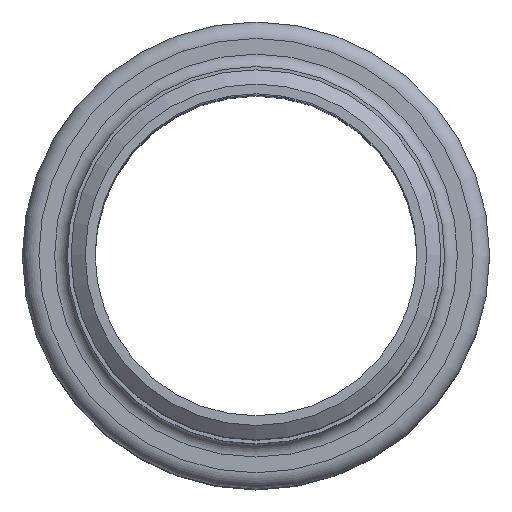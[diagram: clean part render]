
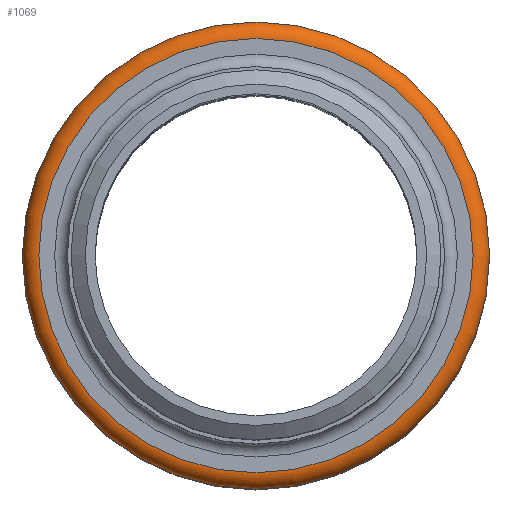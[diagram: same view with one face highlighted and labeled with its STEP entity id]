
A CAD part, top view. The second image highlights one B-rep face of the part: STEP entity #1069.
In plain terms, the highlighted toroidal (fillet/blend) face has major radius 35.414 mm and minor radius 2.686 mm.
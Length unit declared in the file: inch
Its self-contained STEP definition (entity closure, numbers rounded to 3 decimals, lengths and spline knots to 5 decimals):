
#45=TOROIDAL_SURFACE('',#1267,1.39425,0.10575);
#172=FACE_OUTER_BOUND('',#283,.T.);
#283=EDGE_LOOP('',(#826,#827,#828,#829));
#403=CIRCLE('',#1266,1.39425);
#404=CIRCLE('',#1268,1.39425);
#405=CIRCLE('',#1269,0.10575);
#492=VERTEX_POINT('',#1939);
#493=VERTEX_POINT('',#1942);
#607=EDGE_CURVE('',#492,#492,#403,.T.);
#608=EDGE_CURVE('',#493,#493,#404,.T.);
#609=EDGE_CURVE('',#493,#492,#405,.T.);
#826=ORIENTED_EDGE('',*,*,#608,.F.);
#827=ORIENTED_EDGE('',*,*,#609,.T.);
#828=ORIENTED_EDGE('',*,*,#607,.T.);
#829=ORIENTED_EDGE('',*,*,#609,.F.);
#1069=ADVANCED_FACE('',(#172),#45,.T.);
#1266=AXIS2_PLACEMENT_3D('',#1940,#1625,#1626);
#1267=AXIS2_PLACEMENT_3D('',#1941,#1627,#1628);
#1268=AXIS2_PLACEMENT_3D('',#1943,#1629,#1630);
#1269=AXIS2_PLACEMENT_3D('',#1944,#1631,#1632);
#1625=DIRECTION('center_axis',(0.,0.,
-1.));
#1626=DIRECTION('ref_axis',(1.,0.,0.));
#1627=DIRECTION('center_axis',(0.,0.,
-1.));
#1628=DIRECTION('ref_axis',(-1.,0.,0.));
#1629=DIRECTION('center_axis',(0.,0.,
-1.));
#1630=DIRECTION('ref_axis',(1.,0.,0.));
#1631=DIRECTION('center_axis',(0.,-1.,0.));
#1632=DIRECTION('ref_axis',(1.,0.,0.));
#1939=CARTESIAN_POINT('',(1.39425,0.,-1.58175));
#1940=CARTESIAN_POINT('Origin',(0.,0.,
-1.58175));
#1941=CARTESIAN_POINT('Origin',(0.,0.,
-1.6875));
#1942=CARTESIAN_POINT('',(1.39425,0.,-1.79325));
#1943=CARTESIAN_POINT('Origin',(0.,0.,
-1.79325));
#1944=CARTESIAN_POINT('Origin',(1.39425,0.,-1.6875));
